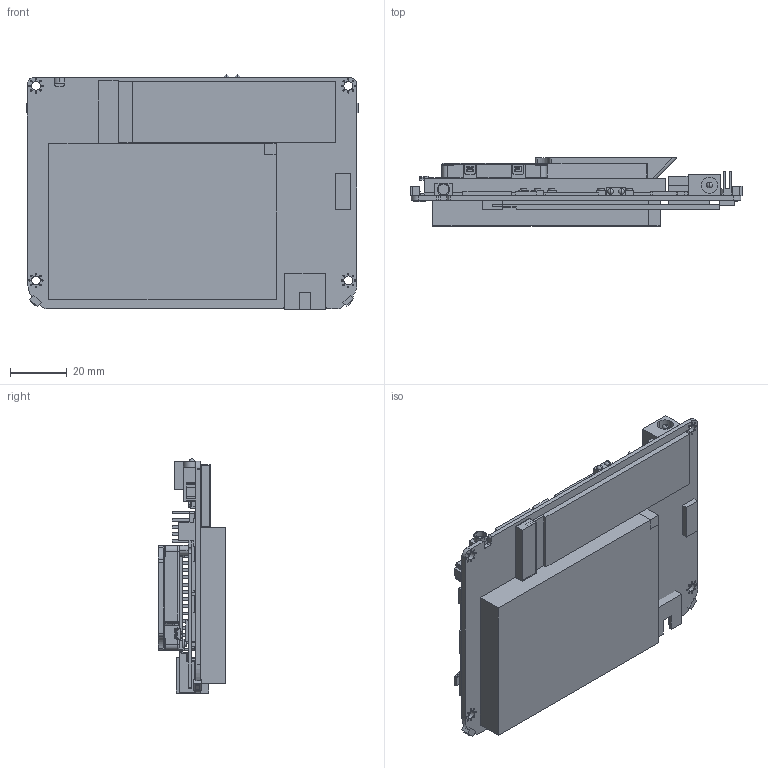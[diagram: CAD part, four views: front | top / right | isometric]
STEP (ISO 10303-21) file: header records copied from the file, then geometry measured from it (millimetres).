
FILE_DESCRIPTION (( 'STEP AP214' ), '1' );
FILE_NAME ('Edge_Captain_Heatsink_Fan_Battery_SSD.STEP', '2019-09-17T04:42:39', ( '' ), ( '' ), 'SwSTEP 2.0', 'SolidWorks 2018', '' );
FILE_SCHEMA (( 'AUTOMOTIVE_DESIGN' ));
Length unit declared in the file: millimetre
Products named in the file (1): Edge_Captain_Heatsink_Fan_Battery_SSD
Bounding box: 116.92 x 23.94 x 82.45 mm (x, y, z)
Volume: 87313.6 mm3; surface area: 86161.8 mm2
Topology: 68 solids, 69 shells, 1826 faces, 4612 edges, 3007 vertices
Faces by surface type: plane 1147, cylinder 546, bspline 63, torus 47, cone 15, sphere 8
Entity records: 77261 total; most frequent: CARTESIAN_POINT 12152, ORIENTED_EDGE 9192, DIRECTION 9172, EDGE_CURVE 4596, LINE 3288, VECTOR 3288, VERTEX_POINT 3001, AXIS2_PLACEMENT_3D 2942
